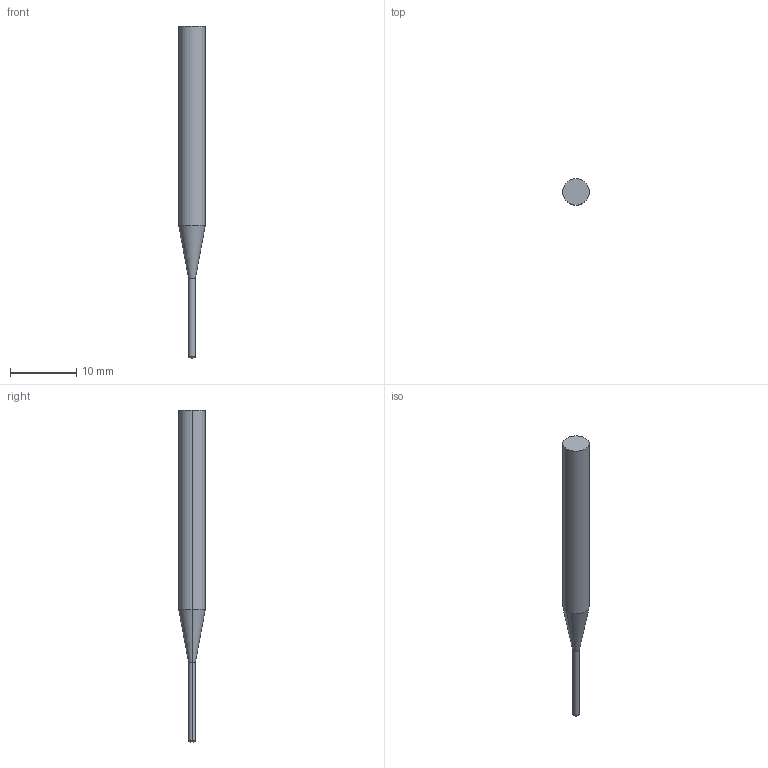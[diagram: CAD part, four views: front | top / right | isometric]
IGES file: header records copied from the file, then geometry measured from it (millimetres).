
Start section: 3D InterOp IGES (v. 2020 1.0.1), Spatial Corp. Copyright (c) 1999-2017.
Global section: file name: WZF17426_1_0.2.igs; native system: Spatial Corp.; preprocessor: 3D InterOp GENERIC/IGES 3.0; author: Noname; organization: Noname; date: 20201007.092644; units: metre
Bounding box: 4 x 4 x 50 mm (x, y, z)
Surface area: 494.7 mm2 (no closed solid volume)
Topology: 0 solids, 0 shells, 10 faces, 40 edges, 38 vertices
Faces by surface type: revolution 8, extrusion 2
